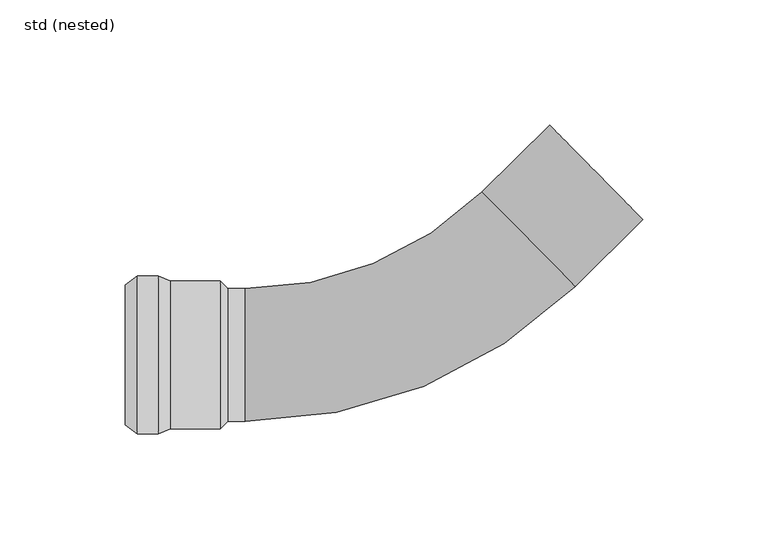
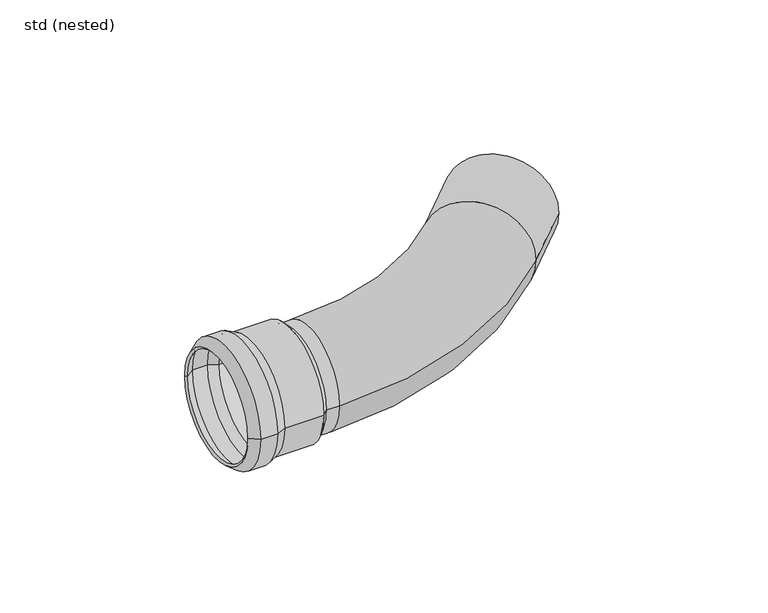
"""IFC4 building model written with IfcOpenShell, lengths in millimetres: pipe fitting geometry, ZZZ_do not use_PIF_ST_UN_GM-X pipe bend_ACO : std (nested)."""

from ifc_helpers import new_model, si_unit, point, frame, origin, place, context, project, spatial, polyline, circle_curve, ellipse_curve, trimmed, source, transform, mapped, element, save
from ifc_brep_helpers import plane_surface, cylinder_surface, revolved_surface, advanced_brep


def std_nested_de9f702d(model_context):
    return source(origin(), model_context, "Body", "AdvancedBrep", [
        advanced_brep(
        [(-100.8, 31.5, 0.0), (-100.8, -31.5, 0.0), (-109.2, -31.5, 0.0), (-109.2, 31.5, 0.0), (-96.0, 29.5, 0.0), (-96.0, -29.5, 0.0), (-114.0, -28.0, 0.0), (-114.0, 28.0, 0.0), (-76.0, 29.5, 0.0), (-76.0, -29.5, 0.0), (-73.0, 26.5, 0.0), (-73.0, -26.5, 0.0), (-76.0, 26.5, 0.0), (-76.0, -26.5, 0.0), (-96.3, 28.0, 0.0), (-96.3, -28.0, 0.0), (-76.0, -28.0, 0.0), (-76.0, 28.0, 0.0), (-101.1, 30.0, 0.0), (-101.1, -30.0, 0.0), (-108.7111977, 30.0, 0.0), (-108.7111977, -30.0, 0.0), (-113.1162418, 26.7879887, 0.0), (-113.1162418, -26.7879887, 0.0)],
        [
            (0, 1, circle_curve(frame((-100.8, 0.0, 0.0), z_axis=(-1.0, 0.0, 0.0), x_axis=(0.0, -1.0, 0.0)), 31.5)),
            (1, 2),
            (2, 3, circle_curve(frame((-109.2, 0.0, 0.0), z_axis=(1.0, 0.0, 0.0), x_axis=(0.0, -1.0, 0.0)), 31.5)),
            (3, 0),
            (1, 0, circle_curve(frame((-100.8, 0.0, 0.0), z_axis=(-1.0, 0.0, 0.0), x_axis=(0.0, -1.0, 0.0)), 31.5)),
            (3, 2, circle_curve(frame((-109.2, 0.0, 0.0), z_axis=(1.0, 0.0, 0.0), x_axis=(0.0, -1.0, 0.0)), 31.5)),
            (4, 5, circle_curve(frame((-96.0, 0.0, 0.0), z_axis=(-1.0, 0.0, 0.0), x_axis=(0.0, -1.0, 0.0)), 29.5)),
            (5, 1),
            (0, 4),
            (5, 4, circle_curve(frame((-96.0, 0.0, 0.0), z_axis=(-1.0, 0.0, 0.0), x_axis=(0.0, -1.0, 0.0)), 29.5)),
            (2, 6),
            (6, 7, circle_curve(frame((-114.0, 0.0, 0.0), z_axis=(1.0, 0.0, 0.0), x_axis=(0.0, -1.0, 0.0)), 28.0)),
            (7, 3),
            (7, 6, circle_curve(frame((-114.0, 0.0, 0.0), z_axis=(1.0, 0.0, 0.0), x_axis=(0.0, -1.0, 0.0)), 28.0)),
            (8, 9, circle_curve(frame((-76.0, 0.0, 0.0), z_axis=(-1.0, 0.0, 0.0), x_axis=(0.0, -1.0, 0.0)), 29.5)),
            (9, 5),
            (4, 8),
            (9, 8, circle_curve(frame((-76.0, 0.0, 0.0), z_axis=(-1.0, 0.0, 0.0), x_axis=(0.0, -1.0, 0.0)), 29.5)),
            (10, 11, circle_curve(frame((-73.0, 0.0, 0.0), z_axis=(-1.0, 0.0, 0.0), x_axis=(0.0, -1.0, 0.0)), 26.5)),
            (11, 9),
            (8, 10),
            (11, 10, circle_curve(frame((-73.0, 0.0, 0.0), z_axis=(-1.0, 0.0, 0.0), x_axis=(0.0, -1.0, 0.0)), 26.5)),
            (12, 13, circle_curve(frame((-76.0, 0.0, 0.0), z_axis=(-1.0, 0.0, 0.0), x_axis=(0.0, -1.0, 0.0)), 26.5)),
            (13, 11),
            (10, 12),
            (13, 12, circle_curve(frame((-76.0, 0.0, 0.0), z_axis=(-1.0, 0.0, 0.0), x_axis=(0.0, -1.0, 0.0)), 26.5)),
            (14, 15, circle_curve(frame((-96.3, 0.0, 0.0), z_axis=(-1.0, 0.0, 0.0), x_axis=(0.0, -1.0, 0.0)), 28.0)),
            (15, 16),
            (16, 17, circle_curve(frame((-76.0, 0.0, 0.0), z_axis=(1.0, 0.0, 0.0), x_axis=(0.0, -1.0, 0.0)), 28.0)),
            (17, 14),
            (15, 14, circle_curve(frame((-96.3, 0.0, 0.0), z_axis=(-1.0, 0.0, 0.0), x_axis=(0.0, -1.0, 0.0)), 28.0)),
            (17, 16, circle_curve(frame((-76.0, 0.0, 0.0), z_axis=(1.0, 0.0, 0.0), x_axis=(0.0, -1.0, 0.0)), 28.0)),
            (18, 19, circle_curve(frame((-101.1, 0.0, 0.0), z_axis=(-1.0, 0.0, 0.0), x_axis=(0.0, -1.0, 0.0)), 30.0)),
            (19, 15),
            (14, 18),
            (19, 18, circle_curve(frame((-101.1, 0.0, 0.0), z_axis=(-1.0, 0.0, 0.0), x_axis=(0.0, -1.0, 0.0)), 30.0)),
            (20, 21, circle_curve(frame((-108.7111977, 0.0, 0.0), z_axis=(-1.0, 0.0, 0.0), x_axis=(0.0, -1.0, 0.0)), 30.0)),
            (21, 19),
            (18, 20),
            (21, 20, circle_curve(frame((-108.7111977, 0.0, 0.0), z_axis=(-1.0, 0.0, 0.0), x_axis=(0.0, -1.0, 0.0)), 30.0)),
            (22, 23, circle_curve(frame((-113.1162418, 0.0, 0.0), z_axis=(-1.0, 0.0, 0.0), x_axis=(0.0, -1.0, 0.0)), 26.7879887)),
            (23, 21),
            (20, 22),
            (23, 22, circle_curve(frame((-113.1162418, 0.0, 0.0), z_axis=(-1.0, 0.0, 0.0), x_axis=(0.0, -1.0, 0.0)), 26.7879887)),
            (6, 23),
            (22, 7),
            (16, 13),
            (12, 17),
        ],
        [
            cylinder_surface(frame((-110.6444117, 0.0, 0.0), z_axis=(1.0, 0.0, 0.0), x_axis=(0.0, -1.0, 0.0)), 31.5),
            revolved_surface(polyline([(-100.8, -31.5, 0.0), (-96.0, -29.5, 0.0)]), (-110.6444117, 0.0, 0.0), (1.0, 0.0, 0.0)),
            revolved_surface(polyline([(-114.0, -28.0, 0.0), (-109.2, -31.5, 0.0)]), (-110.6444117, 0.0, 0.0), (1.0, 0.0, 0.0)),
            cylinder_surface(frame((-110.6444117, 0.0, 0.0), z_axis=(1.0, 0.0, 0.0), x_axis=(0.0, -1.0, 0.0)), 29.5),
            revolved_surface(polyline([(-76.0, -29.5, 0.0), (-73.0, -26.5, 0.0)]), (-110.6444117, 0.0, 0.0), (1.0, 0.0, 0.0)),
            revolved_surface(polyline([(-73.0, -26.5, 0.0), (-76.0, -26.5, 0.0)]), (-110.6444117, 0.0, 0.0), (1.0, 0.0, 0.0)),
            revolved_surface(polyline([(-76.0, -28.0, 0.0), (-96.3, -28.0, 0.0)]), (-110.6444117, 0.0, 0.0), (1.0, 0.0, 0.0)),
            revolved_surface(polyline([(-96.3, -28.0, 0.0), (-101.1, -30.0, 0.0)]), (-110.6444117, 0.0, 0.0), (1.0, 0.0, 0.0)),
            revolved_surface(polyline([(-101.1, -30.0, 0.0), (-108.7111977, -30.0, 0.0)]), (-110.6444117, 0.0, 0.0), (1.0, 0.0, 0.0)),
            revolved_surface(polyline([(-108.7111977, -30.0, 0.0), (-113.1162418, -26.7879887, 0.0)]), (-110.6444117, 0.0, 0.0), (1.0, 0.0, 0.0)),
            revolved_surface(polyline([(-113.1162418, -26.7879887, 0.0), (-114.0, -28.0, 0.0)]), (-110.6444117, 0.0, 0.0), (1.0, 0.0, 0.0)),
            plane_surface(frame((-76.0, 0.0, 0.0), z_axis=(-1.0, 0.0, 0.0), x_axis=(0.0, -1.0, 0.0))),
        ],
        [
            (0, [[1, 2, 3, 4]]),
            (0, [[5, -4, 6, -2]]),
            (1, [[7, 8, -1, 9]]),
            (1, [[10, -9, -5, -8]]),
            (2, [[-3, 11, 12, 13]]),
            (2, [[-6, -13, 14, -11]]),
            (3, [[15, 16, -7, 17]]),
            (3, [[18, -17, -10, -16]]),
            (4, [[19, 20, -15, 21]]),
            (4, [[22, -21, -18, -20]]),
            (5, [[23, 24, -19, 25]]),
            (5, [[26, -25, -22, -24]]),
            (6, [[27, 28, 29, 30]]),
            (6, [[31, -30, 32, -28]]),
            (7, [[33, 34, -27, 35]]),
            (7, [[36, -35, -31, -34]]),
            (8, [[37, 38, -33, 39]]),
            (8, [[40, -39, -36, -38]]),
            (9, [[41, 42, -37, 43]]),
            (9, [[44, -43, -40, -42]]),
            (10, [[-12, 45, -41, 46]]),
            (10, [[-14, -46, -44, -45]]),
            (11, [[-29, 47, -23, 48]]),
            (11, [[-32, -48, -26, -47]]),
        ],
    ),
        advanced_brep(
        [(28.4202108, 65.1961779, 0.0), (-66.0, 26.5, 0.0), (-66.0, -26.5, 0.0), (65.6149015, 27.4396556, 0.0), (47.0175562, 46.3179168, 26.5), (47.0175562, 46.3179168, -26.5), (-76.0, -26.5, 0.0), (-76.0, 26.5, 0.0), (92.6856157, 54.107547, 0.0), (55.4909249, 91.8640694, 0.0)],
        [
            (0, 1, circle_curve(frame((-66.0, 161.0426208, 0.0), z_axis=(0.0, 0.0, -1.0), x_axis=(0.0, -1.0, 0.0)), 134.5426208)),
            (1, 2, circle_curve(frame((-66.0, 0.0, 0.0), z_axis=(1.0, 0.0, 0.0), x_axis=(0.0, 1.0, 0.0)), 26.5)),
            (2, 3, circle_curve(frame((-66.0, 161.0426208, 0.0), z_axis=(0.0, 0.0, 1.0), x_axis=(0.0, -1.0, 0.0)), 187.5426208)),
            (3, 4, circle_curve(frame((47.0175562, 46.3179168, 0.0), z_axis=(-0.7123872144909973, -0.7017866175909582, 0.0), x_axis=(-0.7017866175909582, 0.7123872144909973, 0.0)), 26.5)),
            (4, 0, circle_curve(frame((47.0175562, 46.3179168, 0.0), z_axis=(-0.7123872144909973, -0.7017866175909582, 0.0), x_axis=(-0.7017866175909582, 0.7123872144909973, 0.0)), 26.5)),
            (0, 5, circle_curve(frame((47.0175562, 46.3179168, 0.0), z_axis=(-0.7123872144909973, -0.7017866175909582, 0.0), x_axis=(-0.7017866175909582, 0.7123872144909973, 0.0)), 26.5)),
            (5, 3, circle_curve(frame((47.0175562, 46.3179168, 0.0), z_axis=(-0.7123872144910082, -0.7017866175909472, 0.0), x_axis=(-0.7017866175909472, 0.7123872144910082, 0.0)), 26.5)),
            (2, 1, circle_curve(frame((-66.0, 0.0, 0.0), z_axis=(1.0, 0.0, 0.0), x_axis=(0.0, 1.0, 0.0)), 26.5)),
            (6, 7, circle_curve(frame((-76.0, 0.0, 0.0), z_axis=(-1.0, 0.0, 0.0), x_axis=(0.0, 1.0, 0.0)), 26.5)),
            (7, 6, circle_curve(frame((-76.0, 0.0, 0.0), z_axis=(-1.0, 0.0, 0.0), x_axis=(0.0, 1.0, 0.0)), 26.5)),
            (7, 1),
            (2, 6),
            (8, 9, circle_curve(frame((74.0882703, 72.9858082, 0.0), z_axis=(0.7123872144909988, 0.7017866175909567, 0.0), x_axis=(-0.7017866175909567, 0.7123872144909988, 0.0)), 26.5)),
            (9, 8, circle_curve(frame((74.0882703, 72.9858082, 0.0), z_axis=(0.7123872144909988, 0.7017866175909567, 0.0), x_axis=(-0.7017866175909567, 0.7123872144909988, 0.0)), 26.5)),
            (9, 0),
            (3, 8),
        ],
        [
            revolved_surface(trimmed(ellipse_curve(frame((-66.0, 0.0, 0.0), z_axis=(-1.0, 0.0, 0.0), x_axis=(0.0, 1.0, 0.0)), 26.5, 26.5), [point((-66.0, -26.5, 0.0))], [point((-66.0, 26.5, 0.0))], True, "CARTESIAN"), (-66.0, 161.0426208, 0.0), (0.0, 0.0, 1.0)),
            revolved_surface(trimmed(ellipse_curve(frame((-66.0, 0.0, 0.0), z_axis=(-1.0, 0.0, 0.0), x_axis=(0.0, 1.0, 0.0)), 26.5, 26.5), [point((-66.0, 26.5, 0.0))], [point((-66.0, -26.5, 0.0))], True, "CARTESIAN"), (-66.0, 161.0426208, 0.0), (0.0, 0.0, 1.0)),
            plane_surface(frame((-76.0, 26.5, 0.0), z_axis=(-1.0, 0.0, 0.0), x_axis=(0.0, 0.0, -1.0))),
            cylinder_surface(frame((-76.0, 0.0, 0.0), z_axis=(1.0, 0.0, 0.0), x_axis=(0.0, 1.0, 0.0)), 26.5),
            plane_surface(frame((74.0882703, 72.9858082, 0.0), z_axis=(0.7123872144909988, 0.7017866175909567, 0.0), x_axis=(0.0, 0.0, 1.0))),
            cylinder_surface(frame((47.0175562, 46.3179168, 0.0), z_axis=(-0.7123872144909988, -0.7017866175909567, 0.0), x_axis=(-0.7017866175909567, 0.7123872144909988, 0.0)), 26.5),
        ],
        [
            (0, [[1, 2, 3, 4, 5]]),
            (1, [[-1, 6, 7, -3, 8]]),
            (2, [[9, 10]]),
            (3, [[-10, 11, -8, 12]]),
            (3, [[-9, -12, -2, -11]]),
            (4, [[13, 14]]),
            (5, [[-14, 15, -5, -4, 16]]),
            (5, [[-13, -16, -7, -6, -15]]),
        ],
    ),
    ])


if __name__ == "__main__":
    model = new_model("IFC4")
    model_context = context("Model", 3, world=origin())
    ifc_project = project(units=[si_unit("LENGTHUNIT", "METRE", prefix="MILLI")], contexts=[model_context])
    site = spatial("IfcSite", under=ifc_project)
    building = spatial("IfcBuilding", under=site)
    placement = place(None, origin())
    std_nested_shape = std_nested_de9f702d(model_context)
    element("IfcPipeFitting", 1, ObjectType="ZZZ_do not use_PIF_ST_UN_GM-X pipe bend_ACO : std (nested)", at=placement, inside=building, context=model_context, shape_type="MappedRepresentation", body=[
        mapped(std_nested_shape, transform((0.0, 0.0, 0.0), x_axis=(1.0, 0.0, 0.0), y_axis=(0.0, 1.0, 0.0), z_axis=(0.0, 0.0, 1.0))),
    ])
    save(model, "model.ifc")
